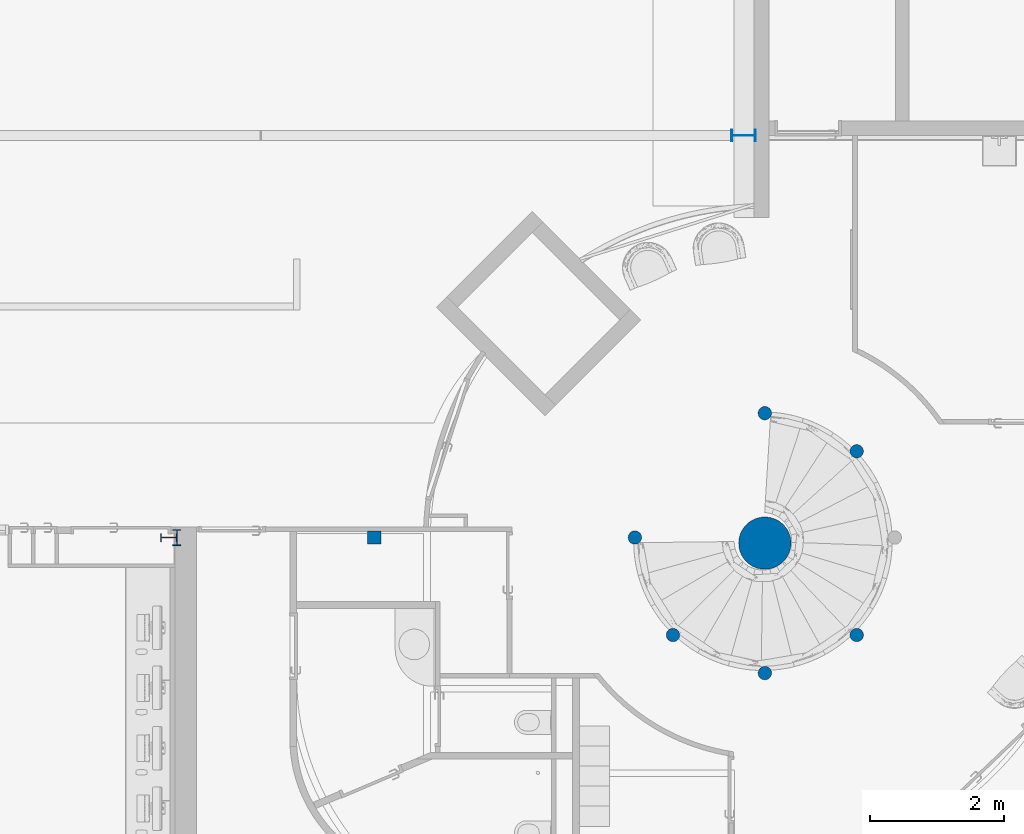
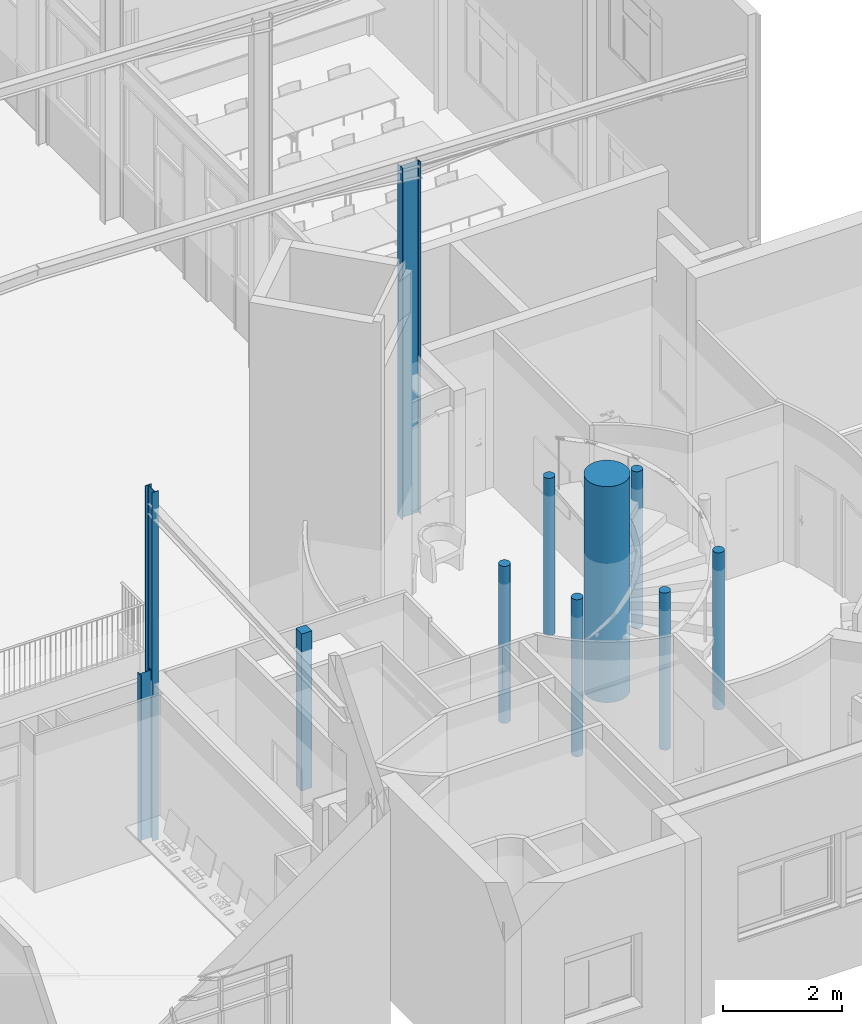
# One storey, part 3 of 137: 11 columns.
"""IFC2X3 building model written with IfcOpenShell, lengths in centimetres."""

import ifcopenshell
import ifcopenshell.guid

model = None  # the IFC model being written
_history = None  # IfcOwnerHistory: only IFC2X3 demands one
_inside = {}  # id of a spatial element -> (the spatial element, [elements in it])
_under = {}  # id of a project, library or spatial element -> (it, [spatial elements below it])
_declared = {}  # id of a project -> (the project, [libraries it declares])
_typed = {}  # id of a type object -> (the type object, [elements of that type])
_made_of = {}  # id of a material, layer set ... -> (it, [elements and type objects made of it])


def new_model(schema):
    """Start an empty IFC model of exactly this schema.

    Asked for "IFC4X3", IfcOpenShell would pick the latest addendum, in which some entities
    have other attributes; the version numbers below select the first issue.
    IFC2X3 requires an IfcOwnerHistory on every rooted entity: one is made here for all.
    """
    global model, _history
    if schema == "IFC4X3":
        model = ifcopenshell.file(schema_version=(4, 3, 0, 0))
    else:
        model = ifcopenshell.file(schema=schema)
    _inside.clear()
    _under.clear()
    _declared.clear()
    _typed.clear()
    _made_of.clear()
    _history = None
    if model.schema == "IFC2X3":
        org = make("IfcOrganization", Name="unknown")
        user = make(
            "IfcPersonAndOrganization",
            ThePerson=make("IfcPerson", FamilyName="unknown"),
            TheOrganization=org,
        )
        app = make(
            "IfcApplication",
            ApplicationDeveloper=org,
            Version="unknown",
            ApplicationFullName="unknown",
            ApplicationIdentifier="unknown",
        )
        _history = make(
            "IfcOwnerHistory",
            OwningUser=user,
            OwningApplication=app,
            ChangeAction="ADDED",
            CreationDate=0,
        )
    return model


def make(cls, **values):
    """One entity of the class cls with the attributes given. An attribute that is None is left unset."""
    return model.create_entity(
        cls, **{name: value for name, value in values.items() if value is not None}
    )


def entity(cls, *values):
    """Any entity or typed value of the class cls, its attributes in the order of the schema. None: left unset."""
    e = model.create_entity(cls)
    for i, value in enumerate(values):
        if value is not None:
            e[i] = value
    return e


def rooted(cls, **values):
    """An entity with a GlobalId (a new one), such as an element, a storey or a relation."""
    return make(cls, GlobalId=ifcopenshell.guid.new(), OwnerHistory=_history, **values)


def si_unit(unit_type, name, prefix=None):
    """IfcSIUnit, for example si_unit("LENGTHUNIT", "METRE", prefix="MILLI")."""
    return make("IfcSIUnit", UnitType=unit_type, Prefix=prefix, Name=name)


def converted_unit(unit_type, name, factor, base, dimensions=None, offset=None):
    """IfcConversionBasedUnit, such as the inch: factor (a typed value) times the base unit."""
    return make(
        "IfcConversionBasedUnit"
        if offset is None
        else "IfcConversionBasedUnitWithOffset",
        ConversionOffset=offset,
        Dimensions=None
        if dimensions is None
        else entity("IfcDimensionalExponents", *dimensions),
        UnitType=unit_type,
        Name=name,
        ConversionFactor=make(
            "IfcMeasureWithUnit", ValueComponent=factor, UnitComponent=base
        ),
    )


def derived_unit(unit_type, elements):
    """IfcDerivedUnit: a product of units, each with its exponent."""
    return make(
        "IfcDerivedUnit",
        Elements=[
            make("IfcDerivedUnitElement", Unit=unit, Exponent=power)
            for unit, power in elements
        ],
        UnitType=unit_type,
    )


def assignment(units):
    """IfcUnitAssignment: the units of a project."""
    return None if units is None else make("IfcUnitAssignment", Units=units)


def point(xyz):
    """IfcCartesianPoint."""
    return None if xyz is None else make("IfcCartesianPoint", Coordinates=xyz)


def direction(xyz):
    """IfcDirection."""
    return None if xyz is None else make("IfcDirection", DirectionRatios=xyz)


def frame(location, z_axis=None, x_axis=None):
    """IfcAxis2Placement3D, a coordinate frame: its origin and axes. An axis left out is left unset."""
    return make(
        "IfcAxis2Placement3D",
        Location=point(location),
        Axis=direction(z_axis),
        RefDirection=direction(x_axis),
    )


def frame_2d(location, x_axis=None):
    """IfcAxis2Placement2D, a coordinate frame in the plane: its origin and x axis."""
    return make(
        "IfcAxis2Placement2D", Location=point(location), RefDirection=direction(x_axis)
    )


def origin():
    """The frame at (0, 0, 0) with its axes left unset."""
    return frame((0.0, 0.0, 0.0))


def place(relative_to, where):
    """IfcLocalPlacement: puts the frame where relative to a parent placement (None: the world)."""
    return make(
        "IfcLocalPlacement", PlacementRelTo=relative_to, RelativePlacement=where
    )


def context(
    kind, dimensions, precision=None, world=None, true_north=None, identifier=None
):
    """IfcGeometricRepresentationContext, for example the 3D "Model" context."""
    return make(
        "IfcGeometricRepresentationContext",
        ContextIdentifier=identifier,
        ContextType=kind,
        CoordinateSpaceDimension=dimensions,
        Precision=precision,
        WorldCoordinateSystem=world,
        TrueNorth=true_north,
    )


def subcontext(parent, identifier, kind, view, scale=None):
    """IfcGeometricRepresentationSubContext, for example "Body" below "Model"."""
    return make(
        "IfcGeometricRepresentationSubContext",
        ContextIdentifier=identifier,
        ContextType=kind,
        ParentContext=parent,
        TargetScale=scale,
        TargetView=view,
    )


def project(units=None, contexts=None):
    """IfcProject with its units and contexts."""
    return rooted(
        "IfcProject",
        Name="project",
        RepresentationContexts=contexts,
        UnitsInContext=assignment(units),
    )


def spatial(cls, under=None, at=None, **own):
    """A site, building, storey or space (cls), placed at a placement, below another one or the project."""
    s = rooted(cls, ObjectPlacement=at, **own)
    if under is not None:
        _under.setdefault(under.id(), (under, []))[1].append(s)
    return s


def polyline(points):
    """IfcPolyline through the points."""
    return make("IfcPolyline", Points=[point(p) for p in points])


def circle_curve(where, radius):
    """IfcCircle in the frame where."""
    return make("IfcCircle", Position=where, Radius=radius)


def parameter(value):
    """IfcParameterValue: where a trimmed curve begins or ends, as a parameter of its basis curve."""
    return model.create_entity("IfcParameterValue", value)


def trimmed(basis, trim1, trim2, sense, master):
    """IfcTrimmedCurve: the piece of a basis curve between two trims."""
    return make(
        "IfcTrimmedCurve",
        BasisCurve=basis,
        Trim1=trim1,
        Trim2=trim2,
        SenseAgreement=sense,
        MasterRepresentation=master,
    )


def segment(curve, same_sense, transition):
    """IfcCompositeCurveSegment."""
    return make(
        "IfcCompositeCurveSegment",
        Transition=transition,
        SameSense=same_sense,
        ParentCurve=curve,
    )


def composite_curve(segments, self_intersect=None):
    """IfcCompositeCurve: segments joined end to end."""
    return make("IfcCompositeCurve", Segments=segments, SelfIntersect=self_intersect)


def profile(cls, at=None, kind="AREA", **sizes):
    """A parametric profile (cls). Its sizes go by their IFC names, for example OverallWidth=200.0."""
    return make(cls, ProfileType=kind, Position=at, **sizes)


def rectangle(**sizes):
    """IfcRectangleProfileDef."""
    return profile("IfcRectangleProfileDef", **sizes)


def circle(**sizes):
    """IfcCircleProfileDef."""
    return profile("IfcCircleProfileDef", **sizes)


def i_section(**sizes):
    """IfcIShapeProfileDef."""
    return profile("IfcIShapeProfileDef", **sizes)


def outline(outer, holes=None, kind="AREA"):
    """IfcArbitraryClosedProfileDef: a profile drawn as a closed curve; with holes, ...WithVoids."""
    if holes is None:
        return make("IfcArbitraryClosedProfileDef", ProfileType=kind, OuterCurve=outer)
    return make(
        "IfcArbitraryProfileDefWithVoids",
        ProfileType=kind,
        OuterCurve=outer,
        InnerCurves=holes,
    )


def extrude(swept, where, along, depth):
    """IfcExtrudedAreaSolid: the profile swept, set in the frame where, extruded along a direction by depth."""
    return make(
        "IfcExtrudedAreaSolid",
        SweptArea=swept,
        Position=where,
        ExtrudedDirection=direction(along),
        Depth=depth,
    )


def shape(context_of_items, identifier, shape_type, items):
    """IfcShapeRepresentation: the items that make up one representation, for example the "Body"."""
    return make(
        "IfcShapeRepresentation",
        ContextOfItems=context_of_items,
        RepresentationIdentifier=identifier,
        RepresentationType=shape_type,
        Items=items,
    )


def source(mapping_origin, context_of_items, identifier, shape_type, items):
    """IfcRepresentationMap: a shape defined once, which mapped items show again and again."""
    return make(
        "IfcRepresentationMap",
        MappingOrigin=mapping_origin,
        MappedRepresentation=shape(context_of_items, identifier, shape_type, items),
    )


def transform(
    local_origin,
    x_axis=None,
    y_axis=None,
    z_axis=None,
    scale=None,
    scale2=None,
    scale3=None,
    uniform=True,
):
    """IfcCartesianTransformationOperator3D, or its non-uniform kind. x_axis, y_axis, z_axis: its Axis1, 2, 3."""
    if uniform:
        return make(
            "IfcCartesianTransformationOperator3D",
            Axis1=direction(x_axis),
            Axis2=direction(y_axis),
            LocalOrigin=point(local_origin),
            Scale=scale,
            Axis3=direction(z_axis),
        )
    return make(
        "IfcCartesianTransformationOperator3DnonUniform",
        Axis1=direction(x_axis),
        Axis2=direction(y_axis),
        LocalOrigin=point(local_origin),
        Scale=scale,
        Axis3=direction(z_axis),
        Scale2=scale2,
        Scale3=scale3,
    )


def mapped(mapping_source, mapping_target):
    """IfcMappedItem: shows the shape of a source again, moved by a transform."""
    return make(
        "IfcMappedItem", MappingSource=mapping_source, MappingTarget=mapping_target
    )


def material(Name=None, Category=None):
    """IfcMaterial."""
    return make("IfcMaterial", Name=Name, Category=Category)


def made_of(thing, what):
    """Note that an element or type object is made of a material, layer set ...; save() writes the relation."""
    if what is not None:
        _made_of.setdefault(what.id(), (what, []))[1].append(thing)
    return thing


def type_object(cls, material=None, **own):
    """A type object (cls), such as IfcWallType, which elements share."""
    return made_of(rooted(cls, **own), material)


def type_shapes(of_type, sources):
    """Give a type object the sources (RepresentationMaps) that its elements show as mapped items."""
    of_type.RepresentationMaps = sources


def element(
    cls,
    number,
    at=None,
    inside=None,
    cuts=None,
    type_object=None,
    material=None,
    context=None,
    identifier="Body",
    shape_type=None,
    held_by="IfcProductDefinitionShape",
    body=None,
    shapes=None,
    **own,
):
    """One element of the class cls, such as IfcWall. Its Tag is "e" and its number.

    at: its placement. inside: the storey or other place that contains it. cuts: it is an
    opening in that element (IfcRelVoidsElement). A single representation is given by context,
    identifier, shape_type and body (its items); several are given by shapes. held_by: the class
    of the entity that holds the representations. save() writes the other relations.
    """
    e = rooted(cls, Tag="e%d" % number, ObjectPlacement=at, **own)
    if body is not None:
        shapes = [shape(context, identifier, shape_type, body)]
    if shapes is not None:
        e.Representation = make(held_by, Representations=shapes)
    if inside is not None:
        _inside.setdefault(inside.id(), (inside, []))[1].append(e)
    if cuts is not None:
        rooted(
            "IfcRelVoidsElement", RelatingBuildingElement=cuts, RelatedOpeningElement=e
        )
    if type_object is not None:
        _typed.setdefault(type_object.id(), (type_object, []))[1].append(e)
    return made_of(e, material)


def aggregate(whole, parts):
    """IfcRelAggregates: a whole, such as a stair, and the parts it consists of."""
    return rooted("IfcRelAggregates", RelatingObject=whole, RelatedObjects=parts)


def save(model, path):
    """Write the relations noted so far, then the file.

    IfcRelAggregates (storeys below a building ...), IfcRelContainedInSpatialStructure (elements
    in a storey), IfcRelDefinesByType, IfcRelAssociatesMaterial and IfcRelDeclares: one each for
    every whole, place, type object, material and project.
    """
    for whole, parts in _under.values():
        aggregate(whole, parts)
    for where, things in _inside.values():
        rooted(
            "IfcRelContainedInSpatialStructure",
            RelatedElements=things,
            RelatingStructure=where,
        )
    for kind, things in _typed.values():
        rooted("IfcRelDefinesByType", RelatedObjects=things, RelatingType=kind)
    for what, things in _made_of.values():
        rooted("IfcRelAssociatesMaterial", RelatedObjects=things, RelatingMaterial=what)
    for by, libraries in _declared.values():
        rooted("IfcRelDeclares", RelatingContext=by, RelatedDefinitions=libraries)
    model.write(path)


model = new_model("IFC2X3")

# Units and contexts
model_context = context("Model", 3, precision=0.001, world=origin(), true_north=direction((6.12303176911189e-17, 1.0)))
body_context = subcontext(model_context, "Body", "Model", "MODEL_VIEW")
ifc_project = project(units=[si_unit("LENGTHUNIT", "METRE", prefix="CENTI"), si_unit("AREAUNIT", "SQUARE_METRE"), si_unit("VOLUMEUNIT", "CUBIC_METRE"), converted_unit("PLANEANGLEUNIT", "DEGREE", entity("IfcRatioMeasure", 0.0174532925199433), si_unit("PLANEANGLEUNIT", "RADIAN"), dimensions=[0, 0, 0, 0, 0, 0, 0]), si_unit("MASSUNIT", "GRAM", prefix="KILO"), si_unit("TIMEUNIT", "SECOND"), si_unit("FREQUENCYUNIT", "HERTZ"), si_unit("THERMODYNAMICTEMPERATUREUNIT", "DEGREE_CELSIUS"), derived_unit("THERMALTRANSMITTANCEUNIT", [(si_unit("MASSUNIT", "GRAM", prefix="KILO"), 1), (si_unit("THERMODYNAMICTEMPERATUREUNIT", "KELVIN"), -1), (si_unit("TIMEUNIT", "SECOND"), -3)]), derived_unit("VOLUMETRICFLOWRATEUNIT", [(si_unit("LENGTHUNIT", "METRE"), 3), (si_unit("TIMEUNIT", "SECOND"), -1)]), si_unit("ELECTRICCURRENTUNIT", "AMPERE"), si_unit("ELECTRICVOLTAGEUNIT", "VOLT"), si_unit("POWERUNIT", "WATT"), si_unit("FORCEUNIT", "NEWTON", prefix="KILO"), si_unit("ILLUMINANCEUNIT", "LUX"), si_unit("LUMINOUSFLUXUNIT", "LUMEN"), si_unit("LUMINOUSINTENSITYUNIT", "CANDELA"), derived_unit("USERDEFINED", [(si_unit("MASSUNIT", "GRAM", prefix="KILO"), -1), (si_unit("LENGTHUNIT", "METRE"), -2), (si_unit("TIMEUNIT", "SECOND"), 3), (si_unit("LUMINOUSFLUXUNIT", "LUMEN"), 1)]), derived_unit("LINEARVELOCITYUNIT", [(si_unit("LENGTHUNIT", "METRE"), 1), (si_unit("TIMEUNIT", "SECOND"), -1)]), si_unit("PRESSUREUNIT", "PASCAL"), derived_unit("USERDEFINED", [(si_unit("LENGTHUNIT", "METRE"), -2), (si_unit("MASSUNIT", "GRAM", prefix="KILO"), 1), (si_unit("TIMEUNIT", "SECOND"), -2)])], contexts=[model_context])

# Site, building, storey
site_placement = place(None, frame((8.62739174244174, -249.285249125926, 0.0)))
site = spatial("IfcSite", under=ifc_project, at=site_placement, Name="Default", CompositionType="ELEMENT")
building_placement = place(site_placement, origin())
building = spatial("IfcBuilding", under=site, at=building_placement, CompositionType="ELEMENT")
storey_placement = place(building_placement, origin())
storey = spatial("IfcBuildingStorey", under=building, at=storey_placement, Name="RDC", CompositionType="ELEMENT", Elevation=-8.82465566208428e-11)

# Columns
ifc_material_1 = material(Name="Béton, coffrage en contreplaqué")
column_type_1 = type_object("IfcColumnType", Name="Diamètre de 200 mm", PredefinedType="COLUMN", material=ifc_material_1)
shared_shape_1 = source(origin(), body_context, "Body", "SweptSolid", [
    extrude(circle(Radius=9.99999999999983, at=frame_2d((2.76554195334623e-15, 3.33333333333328), x_axis=(1.0, 0.0))), frame((0.0, 3.33333333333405, 0.0), z_axis=(0.0, 0.0, 1.0), x_axis=(-1.0, 0.0, 0.0)), (0.0, 0.0, 1.0), 322.000000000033),
])
type_shapes(column_type_1, [shared_shape_1])
for number, where, name in (
    (1, (3043.75821774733, 559.611075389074, 0.0), "Poteau porteur rond:Diamètre de 200 mm"),
    (2, (2906.57950219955, 616.432359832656, 0.0), "Poteau porteur rond:Diamètre de 200 mm"),
    (3, (2849.75821774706, 761.980208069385, 0.0), "Poteau porteur rond:Diamètre de 200 mm"),
    (4, (3043.75821774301, 947.611075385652, 0.0), "Poteau porteur rond:Diamètre de 200 mm"),
    (5, (3180.93693329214, 890.789790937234, 0.0), "Poteau porteur rond:Diamètre de 200 mm"),
    (6, (3180.93693328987, 616.432359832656, 0.0), "Poteau porteur rond:Diamètre de 200 mm"),
):
    element("IfcColumn", number, at=place(storey_placement, frame(where)), inside=storey, type_object=column_type_1, material=ifc_material_1, Name=name, ObjectType="Diamètre de 200 mm", context=body_context, shape_type="MappedRepresentation", body=[
        mapped(shared_shape_1, transform((0.0, 0.0, 0.0), scale=1.0)),
    ])
ifc_material_2 = material(Name="Maçonnerie - Béton")
column_type_2 = type_object("IfcColumnType", Name="Diamètre de 780 mm", PredefinedType="COLUMN", material=ifc_material_2)
shared_shape_2 = source(origin(), body_context, "Body", "SweptSolid", [
    extrude(circle(Radius=38.9999999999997, at=frame_2d((1.4395170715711e-14, 12.9999999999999), x_axis=(1.0, 0.0))), frame((0.0, 13.0, 0.0), z_axis=(0.0, 0.0, 1.0), x_axis=(-1.0, 0.0, 0.0)), (0.0, 0.0, 1.0), 443.000000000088),
])
type_shapes(column_type_2, [shared_shape_2])
column_1_placement = place(storey_placement, frame((3043.75821774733, 753.611075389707, 0.0)))
element("IfcColumn", 7, at=column_1_placement, inside=storey, type_object=column_type_2, material=ifc_material_2, Name="Poteau porteur rond:Diamètre de 780 mm", ObjectType="Diamètre de 780 mm", context=body_context, shape_type="MappedRepresentation", body=[
    mapped(shared_shape_2, transform((0.0, 0.0, 0.0), scale=1.0)),
])
ifc_material_3 = material(Name="Acier, 45-345")
column_type_3 = type_object("IfcColumnType", Name="IPE240", PredefinedType="COLUMN", material=ifc_material_3)
shared_shape_3 = source(origin(), body_context, "Body", "SweptSolid", [
    extrude(outline(composite_curve([segment(polyline([(11.1, -6.0), (12.0, -6.0)]), True, "CONTINUOUS"), segment(polyline([(12.0, -6.0), (12.0, 6.0)]), True, "CONTINUOUS"), segment(polyline([(12.0, 6.0), (11.1, 6.0)]), True, "CONTINUOUS"), segment(polyline([(11.1, 6.0), (11.1, 1.8)]), True, "CONTINUOUS"), segment(trimmed(circle_curve(frame_2d((9.6, 1.79999999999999), x_axis=(1.0, 0.0)), 1.49999999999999), [parameter(269.999999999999)], [parameter(0.0)], True, "PARAMETER"), False, "CONTINUOUS"), segment(polyline([(9.6, 0.3), (-9.59999999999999, 0.3)]), True, "CONTINUOUS"), segment(trimmed(circle_curve(frame_2d((-9.59999999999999, 1.8), x_axis=(0.0, -1.0)), 1.5), [parameter(270.0)], [parameter(0.0)], True, "PARAMETER"), False, "CONTINUOUS"), segment(polyline([(-11.1, 1.8), (-11.1, 6.0)]), True, "CONTINUOUS"), segment(polyline([(-11.1, 6.0), (-12.0, 6.0)]), True, "CONTINUOUS"), segment(polyline([(-12.0, 6.0), (-12.0, -6.0)]), True, "CONTINUOUS"), segment(polyline([(-12.0, -6.0), (-11.1, -6.0)]), True, "CONTINUOUS"), segment(polyline([(-11.1, -6.0), (-11.1, -1.8)]), True, "CONTINUOUS"), segment(trimmed(circle_curve(frame_2d((-9.59999999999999, -1.8), x_axis=(-1.0, 0.0)), 1.5), [parameter(270.0)], [parameter(0.0)], True, "PARAMETER"), False, "CONTINUOUS"), segment(polyline([(-9.6, -0.3), (9.6, -0.3)]), True, "CONTINUOUS"), segment(trimmed(circle_curve(frame_2d((9.6, -1.8), x_axis=(0.0, 1.0)), 1.5), [parameter(270.0)], [parameter(0.0)], True, "PARAMETER"), False, "CONTINUOUS"), segment(polyline([(11.1, -1.8), (11.1, -6.0)]), True, "CONTINUOUS")], self_intersect=False)), frame((0.0, 0.0, 0.0), z_axis=(0.0, 0.0, 1.0), x_axis=(0.0, -1.0, 0.0)), (0.0, 0.0, 1.0), 715.0),
])
type_shapes(column_type_3, [shared_shape_3])
column_2_placement = place(storey_placement, frame((2165.90000000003, 761.980208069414, 0.0), z_axis=(0.0, 0.0, 1.0), x_axis=(-1.0, 0.0, 0.0)))
element("IfcColumn", 8, at=column_2_placement, inside=storey, type_object=column_type_3, material=ifc_material_3, Name="IPE-240-120:IPE240", ObjectType="IPE240", context=body_context, shape_type="MappedRepresentation", body=[
    mapped(shared_shape_3, transform((0.0, 0.0, 0.0), scale=1.0)),
])
column_type_4 = type_object("IfcColumnType", Name="Diamètre de 200 mm", PredefinedType="COLUMN", material=ifc_material_1)
shared_shape_4 = source(origin(), body_context, "Body", "SweptSolid", [
    extrude(rectangle(XDim=20.0000000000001, YDim=19.9999999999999, at=frame_2d((8.88178419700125e-16, 0.0), x_axis=(1.0, 0.0))), frame((0.0, 0.0, 0.0), z_axis=(0.0, 0.0, 1.0), x_axis=(0.0, -1.0, 0.0)), (0.0, 0.0, 1.0), 322.000000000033),
])
type_shapes(column_type_4, [shared_shape_4])
column_3_placement = place(storey_placement, frame((2460.9048278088, 761.980208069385, 0.0)))
element("IfcColumn", 9, at=column_3_placement, inside=storey, type_object=column_type_4, material=ifc_material_1, Name="Poteau porteur carre:Diamètre de 200 mm", ObjectType="Diamètre de 200 mm", context=body_context, shape_type="MappedRepresentation", body=[
    mapped(shared_shape_4, transform((0.0, 0.0, 0.0), scale=1.0)),
])
column_type_5 = type_object("IfcColumnType", Name="IPE360", PredefinedType="COLUMN", material=ifc_material_3)
shared_shape_5 = source(origin(), body_context, "Body", "SweptSolid", [
    extrude(outline(composite_curve([segment(polyline([(17.1, -8.5), (18.0, -8.5)]), True, "CONTINUOUS"), segment(polyline([(18.0, -8.5), (18.0, 8.5)]), True, "CONTINUOUS"), segment(polyline([(18.0, 8.5), (17.1, 8.5)]), True, "CONTINUOUS"), segment(polyline([(17.1, 8.5), (17.1, 1.79999999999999)]), True, "CONTINUOUS"), segment(trimmed(circle_curve(frame_2d((15.6, 1.80000000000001), x_axis=(1.0, 0.0)), 1.50000000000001), [parameter(270.000000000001)], [parameter(0.0)], True, "PARAMETER"), False, "CONTINUOUS"), segment(polyline([(15.6, 0.3), (-15.6, 0.3)]), True, "CONTINUOUS"), segment(trimmed(circle_curve(frame_2d((-15.6, 1.8), x_axis=(0.0, -1.0)), 1.5), [parameter(270.0)], [parameter(0.0)], True, "PARAMETER"), False, "CONTINUOUS"), segment(polyline([(-17.1, 1.8), (-17.1, 8.5)]), True, "CONTINUOUS"), segment(polyline([(-17.1, 8.5), (-18.0, 8.5)]), True, "CONTINUOUS"), segment(polyline([(-18.0, 8.5), (-18.0, -8.5)]), True, "CONTINUOUS"), segment(polyline([(-18.0, -8.5), (-17.1, -8.5)]), True, "CONTINUOUS"), segment(polyline([(-17.1, -8.5), (-17.1, -1.8)]), True, "CONTINUOUS"), segment(trimmed(circle_curve(frame_2d((-15.6, -1.8), x_axis=(-1.0, 0.0)), 1.5), [parameter(269.999999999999)], [parameter(0.0)], True, "PARAMETER"), False, "CONTINUOUS"), segment(polyline([(-15.6, -0.299999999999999), (15.6, -0.299999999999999)]), True, "CONTINUOUS"), segment(trimmed(circle_curve(frame_2d((15.6, -1.79999999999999), x_axis=(0.0, 1.0)), 1.49999999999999), [parameter(269.999999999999)], [parameter(0.0)], True, "PARAMETER"), False, "CONTINUOUS"), segment(polyline([(17.1, -1.8), (17.1, -8.5)]), True, "CONTINUOUS")], self_intersect=False)), frame((0.0, 0.0, 0.0), z_axis=(0.0, 0.0, 1.0), x_axis=(0.0, -1.0, 0.0)), (0.0, 0.0, 1.0), 722.0),
])
type_shapes(column_type_5, [shared_shape_5])
column_4_placement = place(storey_placement, frame((3011.90482780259, 1361.98020806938, 0.0), z_axis=(0.0, 0.0, 1.0), x_axis=(0.0, -1.0, 0.0)))
element("IfcColumn", 10, at=column_4_placement, inside=storey, type_object=column_type_5, material=ifc_material_3, Name="IPE-360-170:IPE360", ObjectType="IPE360", context=body_context, shape_type="MappedRepresentation", body=[
    mapped(shared_shape_5, transform((0.0, 0.0, 0.0), scale=1.0)),
])
column_type_6 = type_object("IfcColumnType", Name="HEA160", PredefinedType="COLUMN", material=ifc_material_3)
shared_shape_6 = source(origin(), body_context, "Body", "SweptSolid", [
    extrude(i_section(OverallWidth=12.0, OverallDepth=24.0, WebThickness=0.6, FlangeThickness=0.9, FilletRadius=1.5, at=frame_2d((0.0, 0.0), x_axis=(0.0, 1.0))), frame((0.0, 0.0, 0.0), z_axis=(0.0, 0.0, 1.0), x_axis=(0.0, -1.0, 0.0)), (0.0, 0.0, 1.0), 343.0),
])
type_shapes(column_type_6, [shared_shape_6])
column_5_placement = place(storey_placement, frame((2153.60000000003, 761.980208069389, 0.0), z_axis=(0.0, 0.0, 1.0), x_axis=(0.0, 1.0, 0.0)))
element("IfcColumn", 11, at=column_5_placement, inside=storey, type_object=column_type_6, material=ifc_material_3, Name="IPE-240-120:HEA160", ObjectType="HEA160", context=body_context, shape_type="MappedRepresentation", body=[
    mapped(shared_shape_6, transform((0.0, 0.0, 0.0), scale=1.0)),
])

save(model, "model.ifc")
